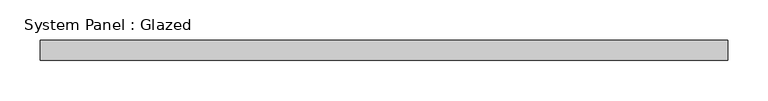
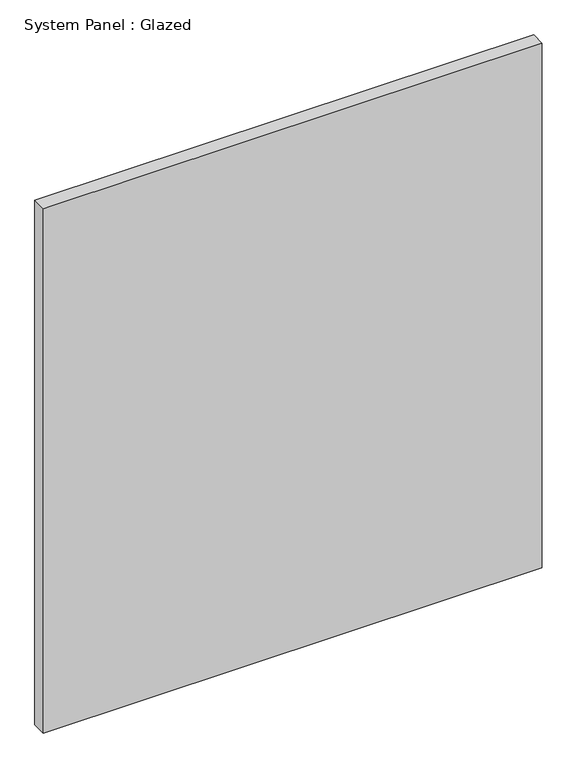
"""IFC4 building model written with IfcOpenShell, lengths in millimetres: plate geometry, System Panel : Glazed."""

from ifc_helpers import new_model, si_unit, origin, origin_with_axes, place, context, project, spatial, polyline, outline, extrude, source, transform, mapped, element, save


def system_panel_glazed_84d5cb09(model_context):
    return source(origin(), model_context, "Body", "SweptSolid", [
        extrude(outline(polyline([(427.5, 24.5), (-427.5, 24.5), (-427.5, 49.5), (427.5, 49.5), (427.5, 24.5)])), origin_with_axes(), (0.0, 0.0, 1.0), 950.0),
    ])


if __name__ == "__main__":
    model = new_model("IFC4")
    model_context = context("Model", 3, world=origin())
    ifc_project = project(units=[si_unit("LENGTHUNIT", "METRE", prefix="MILLI")], contexts=[model_context])
    site = spatial("IfcSite", under=ifc_project)
    building = spatial("IfcBuilding", under=site)
    placement = place(None, origin())
    system_panel_glazed_shape = system_panel_glazed_84d5cb09(model_context)
    element("IfcPlate", 1, ObjectType="System Panel : Glazed", at=placement, inside=building, context=model_context, shape_type="MappedRepresentation", body=[
        mapped(system_panel_glazed_shape, transform((0.0, 0.0, 0.0), x_axis=(1.0, 0.0, 0.0), y_axis=(0.0, 1.0, 0.0), z_axis=(0.0, 0.0, 1.0))),
    ])
    save(model, "model.ifc")
